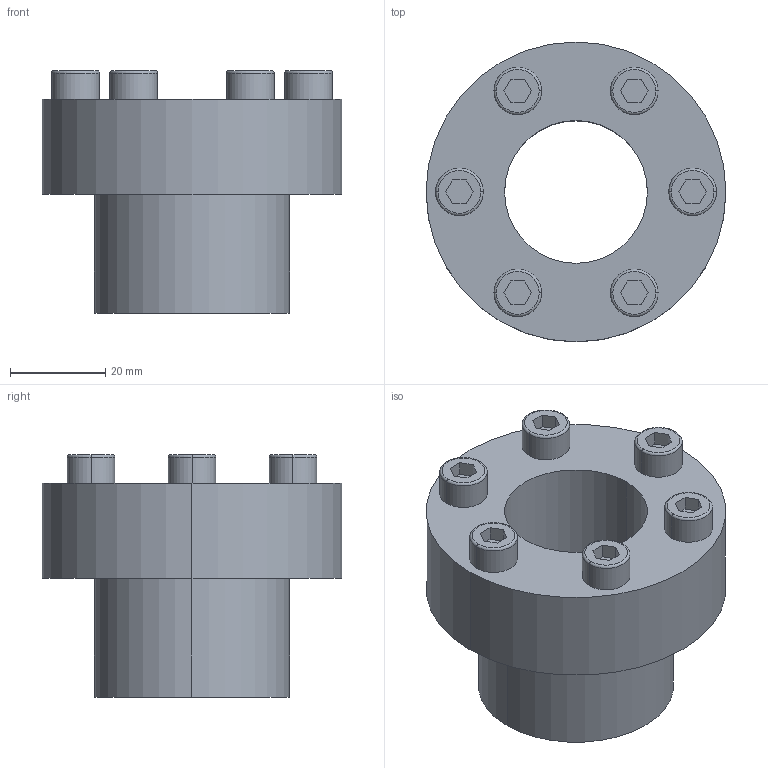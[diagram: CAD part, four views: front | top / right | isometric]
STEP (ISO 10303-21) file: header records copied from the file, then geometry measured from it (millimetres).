
FILE_DESCRIPTION (( 'STEP AP203' ), '1' );
FILE_NAME ('PL-C 30-41.STEP', '2021-10-22T08:39:35', ( '' ), ( '' ), 'SwSTEP 2.0', 'SolidWorks 2018', '' );
FILE_SCHEMA (( 'CONFIG_CONTROL_DESIGN' ));
Length unit declared in the file: millimetre
Products named in the file (1): PL-C 30-41
Bounding box: 63 x 63 x 51 mm (x, y, z)
Volume: 65970.5 mm3; surface area: 17642.1 mm2
Topology: 1 solids, 1 shells, 81 faces, 186 edges, 120 vertices
Faces by surface type: plane 51, cylinder 18, torus 12
Entity records: 2365 total; most frequent: DIRECTION 410, CARTESIAN_POINT 388, ORIENTED_EDGE 372, EDGE_CURVE 186, AXIS2_PLACEMENT_3D 142, VECTOR 126, LINE 126, VERTEX_POINT 120
